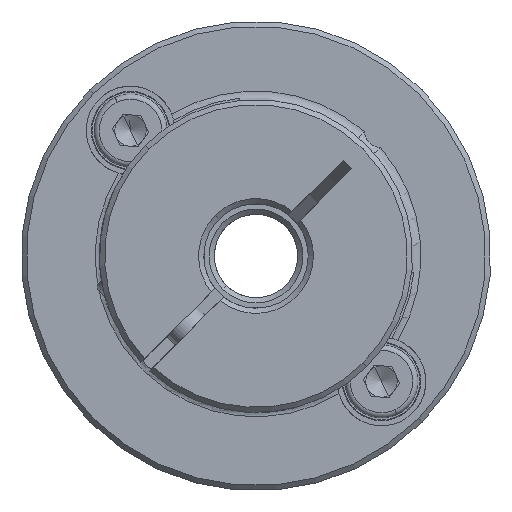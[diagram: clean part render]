
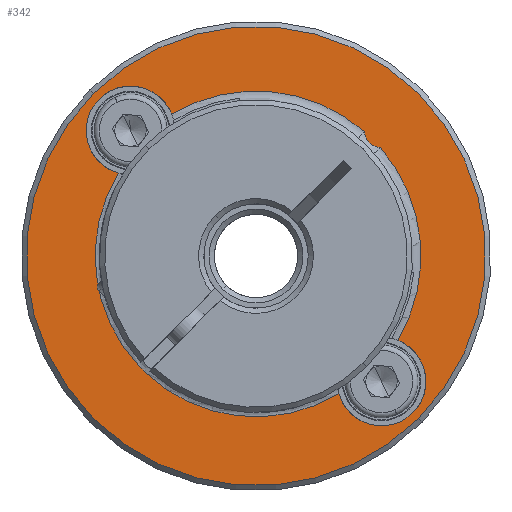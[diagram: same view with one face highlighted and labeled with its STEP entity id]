
A CAD part, front view. The second image highlights one B-rep face of the part: STEP entity #342.
In plain terms, the highlighted planar face has unit normal (0, -1, 0).
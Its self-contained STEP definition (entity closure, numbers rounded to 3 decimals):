
#163 = CIRCLE ( 'NONE', #8253, 22. ) ;
#236 = DIRECTION ( 'NONE',  ( -0.707, 0., 0.707 ) ) ;
#268 = CARTESIAN_POINT ( 'NONE',  ( -14.552, 21.413, 55.935 ) ) ;
#301 = EDGE_CURVE ( 'NONE', #5863, #3282, #12234, .T. ) ;
#342 = ADVANCED_FACE ( 'NONE', ( #4168, #10182 ), #495, .T. ) ;
#435 = CARTESIAN_POINT ( 'NONE',  ( -2.531, 21.413, 43.914 ) ) ;
#495 = PLANE ( 'NONE',  #6207 ) ;
#574 = CARTESIAN_POINT ( 'NONE',  ( 7.843, 21.413, 55.831 ) ) ;
#670 = VERTEX_POINT ( 'NONE', #6791 ) ;
#796 = AXIS2_PLACEMENT_3D ( 'NONE', #7752, #2985, #11586 ) ;
#800 = CIRCLE ( 'NONE', #12001, 4.25 ) ;
#923 = CARTESIAN_POINT ( 'NONE',  ( -13.145, 21.413, 32.757 ) ) ;
#1326 = CIRCLE ( 'NONE', #4766, 4.25 ) ;
#1353 = CARTESIAN_POINT ( 'NONE',  ( 9.49, 21.413, 55.935 ) ) ;
#1362 = DIRECTION ( 'NONE',  ( 0., -1., 0. ) ) ;
#1363 = EDGE_CURVE ( 'NONE', #9114, #10486, #3105, .T. ) ;
#1390 = DIRECTION ( 'NONE',  ( 0., 1., 0. ) ) ;
#1456 = CIRCLE ( 'NONE', #6206, 4.25 ) ;
#1475 = VERTEX_POINT ( 'NONE', #574 ) ;
#1897 = ORIENTED_EDGE ( 'NONE', *, *, #10086, .T. ) ;
#1932 = DIRECTION ( 'NONE',  ( -0.707, 0., 0.707 ) ) ;
#1968 = AXIS2_PLACEMENT_3D ( 'NONE', #5052, #11726, #236 ) ;
#2065 = ORIENTED_EDGE ( 'NONE', *, *, #301, .T. ) ;
#2189 = CARTESIAN_POINT ( 'NONE',  ( -18.087, 21.413, 59.47 ) ) ;
#2349 = AXIS2_PLACEMENT_3D ( 'NONE', #7186, #10991, #9158 ) ;
#2353 = CARTESIAN_POINT ( 'NONE',  ( 11.054, 21.413, 35.845 ) ) ;
#2380 = DIRECTION ( 'NONE',  ( -0.707, 0., 0.707 ) ) ;
#2480 = DIRECTION ( 'NONE',  ( 0.145, 0., -0.989 ) ) ;
#2613 = CIRCLE ( 'NONE', #11604, 4.25 ) ;
#2664 = CIRCLE ( 'NONE', #11561, 15.8 ) ;
#2774 = DIRECTION ( 'NONE',  ( -0.707, 0., 0.707 ) ) ;
#2824 = DIRECTION ( 'NONE',  ( 0., 1., 0. ) ) ;
#2985 = DIRECTION ( 'NONE',  ( 0., -1., 0. ) ) ;
#3067 = DIRECTION ( 'NONE',  ( -0.707, 0., 0.707 ) ) ;
#3077 = CARTESIAN_POINT ( 'NONE',  ( -13.688, 21.413, 33.299 ) ) ;
#3105 = CIRCLE ( 'NONE', #1968, 15.8 ) ;
#3270 = ORIENTED_EDGE ( 'NONE', *, *, #10848, .T. ) ;
#3282 = VERTEX_POINT ( 'NONE', #11559 ) ;
#3343 = ORIENTED_EDGE ( 'NONE', *, *, #11761, .T. ) ;
#3559 = ORIENTED_EDGE ( 'NONE', *, *, #8019, .T. ) ;
#3679 = ORIENTED_EDGE ( 'NONE', *, *, #8128, .T. ) ;
#3714 = CARTESIAN_POINT ( 'NONE',  ( -2.531, 21.413, 43.914 ) ) ;
#3865 = CARTESIAN_POINT ( 'NONE',  ( 9.49, 21.413, 31.893 ) ) ;
#3941 = CARTESIAN_POINT ( 'NONE',  ( 13.026, 21.413, 28.358 ) ) ;
#4168 = FACE_BOUND ( 'NONE', #11928, .T. ) ;
#4253 = DIRECTION ( 'NONE',  ( 1., 0., 0. ) ) ;
#4271 = ORIENTED_EDGE ( 'NONE', *, *, #12227, .T. ) ;
#4431 = VERTEX_POINT ( 'NONE', #923 ) ;
#4504 = ORIENTED_EDGE ( 'NONE', *, *, #5669, .T. ) ;
#4766 = AXIS2_PLACEMENT_3D ( 'NONE', #10254, #4876, #1932 ) ;
#4876 = DIRECTION ( 'NONE',  ( 0., 1., 0. ) ) ;
#5052 = CARTESIAN_POINT ( 'NONE',  ( -2.531, 21.413, 43.914 ) ) ;
#5407 = CARTESIAN_POINT ( 'NONE',  ( -10.6, 21.413, 57.498 ) ) ;
#5411 = ORIENTED_EDGE ( 'NONE', *, *, #9767, .T. ) ;
#5669 = EDGE_CURVE ( 'NONE', #6021, #1475, #2664, .T. ) ;
#5863 = VERTEX_POINT ( 'NONE', #9932 ) ;
#5870 = CIRCLE ( 'NONE', #796, 22. ) ;
#6021 = VERTEX_POINT ( 'NONE', #5407 ) ;
#6169 = ORIENTED_EDGE ( 'NONE', *, *, #7233, .T. ) ;
#6205 = B_SPLINE_CURVE_WITH_KNOTS ( 'NONE', 3,
 ( #6797, #8715, #8761, #3077 ),
 .UNSPECIFIED., .F., .F.,
 ( 4, 4 ),
 ( 0., 1. ),
 .UNSPECIFIED. ) ;
#6206 = AXIS2_PLACEMENT_3D ( 'NONE', #268, #10839, #11099 ) ;
#6207 = AXIS2_PLACEMENT_3D ( 'NONE', #1353, #6255, #2480 ) ;
#6255 = DIRECTION ( 'NONE',  ( 0., -1., 0. ) ) ;
#6333 = VERTEX_POINT ( 'NONE', #2189 ) ;
#6791 = CARTESIAN_POINT ( 'NONE',  ( -17.557, 21.413, 58.94 ) ) ;
#6797 = CARTESIAN_POINT ( 'NONE',  ( -13.145, 21.413, 32.757 ) ) ;
#7186 = CARTESIAN_POINT ( 'NONE',  ( -2.531, 21.413, 43.914 ) ) ;
#7233 = EDGE_CURVE ( 'NONE', #11618, #9432, #800, .T. ) ;
#7246 = DIRECTION ( 'NONE',  ( 0., 1., 0. ) ) ;
#7752 = CARTESIAN_POINT ( 'NONE',  ( -2.531, 21.413, 43.914 ) ) ;
#7833 = DIRECTION ( 'NONE',  ( 0., 1., 0. ) ) ;
#7915 = CARTESIAN_POINT ( 'NONE',  ( -14.552, 21.413, 55.935 ) ) ;
#8019 = EDGE_CURVE ( 'NONE', #670, #6021, #2613, .T. ) ;
#8128 = EDGE_CURVE ( 'NONE', #9432, #4431, #12341, .T. ) ;
#8253 = AXIS2_PLACEMENT_3D ( 'NONE', #3714, #10511, #10346 ) ;
#8328 = CARTESIAN_POINT ( 'NONE',  ( 9.386, 21.413, 54.288 ) ) ;
#8715 = CARTESIAN_POINT ( 'NONE',  ( -13.283, 21.413, 32.981 ) ) ;
#8761 = CARTESIAN_POINT ( 'NONE',  ( -13.464, 21.413, 33.162 ) ) ;
#9004 = EDGE_CURVE ( 'NONE', #4431, #5863, #6205, .T. ) ;
#9078 = CARTESIAN_POINT ( 'NONE',  ( 12.495, 21.413, 28.888 ) ) ;
#9114 = VERTEX_POINT ( 'NONE', #8328 ) ;
#9158 = DIRECTION ( 'NONE',  ( -0.707, 0., 0.707 ) ) ;
#9254 = AXIS2_PLACEMENT_3D ( 'NONE', #12231, #1362, #4253 ) ;
#9338 = ORIENTED_EDGE ( 'NONE', *, *, #9004, .T. ) ;
#9432 = VERTEX_POINT ( 'NONE', #9907 ) ;
#9480 = CIRCLE ( 'NONE', #9254, 1.65 ) ;
#9500 = DIRECTION ( 'NONE',  ( -0.707, 0., 0.707 ) ) ;
#9767 = EDGE_CURVE ( 'NONE', #6333, #11786, #163, .T. ) ;
#9881 = AXIS2_PLACEMENT_3D ( 'NONE', #12008, #7246, #2380 ) ;
#9907 = CARTESIAN_POINT ( 'NONE',  ( 5.406, 21.413, 30.717 ) ) ;
#9932 = CARTESIAN_POINT ( 'NONE',  ( -13.688, 21.413, 33.299 ) ) ;
#10086 = EDGE_CURVE ( 'NONE', #1475, #9114, #9480, .T. ) ;
#10182 = FACE_OUTER_BOUND ( 'NONE', #12370, .T. ) ;
#10254 = CARTESIAN_POINT ( 'NONE',  ( 9.49, 21.413, 31.893 ) ) ;
#10256 = ORIENTED_EDGE ( 'NONE', *, *, #1363, .T. ) ;
#10346 = DIRECTION ( 'NONE',  ( -0.707, 0., 0.707 ) ) ;
#10486 = VERTEX_POINT ( 'NONE', #2353 ) ;
#10511 = DIRECTION ( 'NONE',  ( 0., -1., 0. ) ) ;
#10839 = DIRECTION ( 'NONE',  ( 0., 1., 0. ) ) ;
#10848 = EDGE_CURVE ( 'NONE', #11786, #6333, #5870, .T. ) ;
#10991 = DIRECTION ( 'NONE',  ( 0., 1., 0. ) ) ;
#11099 = DIRECTION ( 'NONE',  ( -0.707, 0., 0.707 ) ) ;
#11559 = CARTESIAN_POINT ( 'NONE',  ( -15.728, 21.413, 51.851 ) ) ;
#11561 = AXIS2_PLACEMENT_3D ( 'NONE', #435, #1390, #2774 ) ;
#11586 = DIRECTION ( 'NONE',  ( -0.707, 0., 0.707 ) ) ;
#11604 = AXIS2_PLACEMENT_3D ( 'NONE', #7915, #7833, #3067 ) ;
#11618 = VERTEX_POINT ( 'NONE', #9078 ) ;
#11726 = DIRECTION ( 'NONE',  ( 0., 1., 0. ) ) ;
#11761 = EDGE_CURVE ( 'NONE', #10486, #11618, #1326, .T. ) ;
#11786 = VERTEX_POINT ( 'NONE', #3941 ) ;
#11928 = EDGE_LOOP ( 'NONE', ( #1897, #10256, #3343, #6169, #3679, #9338, #2065, #4271, #3559, #4504 ) ) ;
#12001 = AXIS2_PLACEMENT_3D ( 'NONE', #3865, #2824, #9500 ) ;
#12008 = CARTESIAN_POINT ( 'NONE',  ( -2.531, 21.413, 43.914 ) ) ;
#12227 = EDGE_CURVE ( 'NONE', #3282, #670, #1456, .T. ) ;
#12231 = CARTESIAN_POINT ( 'NONE',  ( 9.49, 21.413, 55.935 ) ) ;
#12234 = CIRCLE ( 'NONE', #2349, 15.4 ) ;
#12341 = CIRCLE ( 'NONE', #9881, 15.4 ) ;
#12370 = EDGE_LOOP ( 'NONE', ( #3270, #5411 ) ) ;
